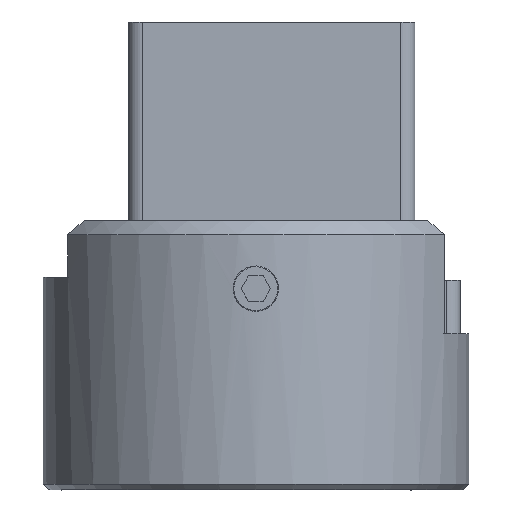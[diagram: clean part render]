
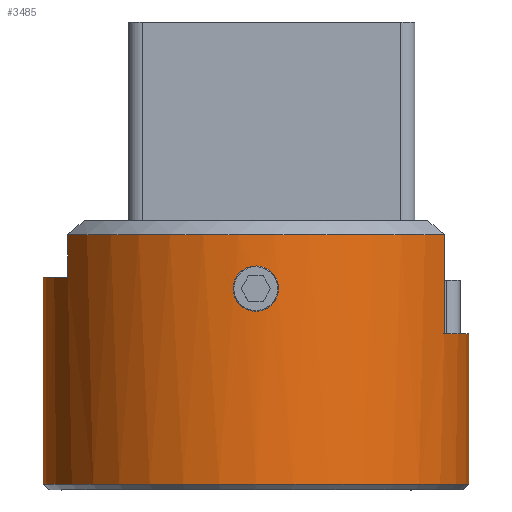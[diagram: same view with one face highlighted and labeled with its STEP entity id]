
A CAD part, left-side view. The second image highlights one B-rep face of the part: STEP entity #3485.
In plain terms, the highlighted cylindrical face has radius 7.5 mm (diameter 15 mm), a partial arc.
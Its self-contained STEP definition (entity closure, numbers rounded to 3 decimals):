
#137 = VECTOR ( 'NONE', #1724, 1000. ) ;
#146 = B_SPLINE_CURVE_WITH_KNOTS ( 'NONE', 3,
 ( #984, #645, #1683, #4154, #2051, #4499, #2404, #315, #2759, #657, #3118, #1002, #3464, #1358 ),
 .UNSPECIFIED., .F., .F.,
 ( 4, 2, 2, 2, 2, 2, 4 ),
 ( 0.003, 0.003, 0.003, 0.004, 0.004, 0.004, 0.005 ),
 .UNSPECIFIED. ) ;
#202 = CARTESIAN_POINT ( 'NONE',  ( 56.82, -18.328, -26.071 ) ) ;
#216 = CARTESIAN_POINT ( 'NONE',  ( 56.818, -18.349, -25.967 ) ) ;
#220 = VECTOR ( 'NONE', #3931, 1000. ) ;
#229 = CARTESIAN_POINT ( 'NONE',  ( 56.818, -19.928, -26.176 ) ) ;
#241 = EDGE_CURVE ( 'NONE', #2557, #2229, #2311, .T. ) ;
#315 = CARTESIAN_POINT ( 'NONE',  ( 56.776, -19.023, -26.976 ) ) ;
#330 = VERTEX_POINT ( 'NONE', #2060 ) ;
#341 = EDGE_LOOP ( 'NONE', ( #2106, #3053 ) ) ;
#342 = CARTESIAN_POINT ( 'NONE',  ( 60.776, -12.501, -25.776 ) ) ;
#461 = CYLINDRICAL_SURFACE ( 'NONE', #1755, 7.5 ) ;
#530 = EDGE_CURVE ( 'NONE', #330, #707, #1245, .T. ) ;
#558 = FACE_BOUND ( 'NONE', #341, .T. ) ;
#562 = CARTESIAN_POINT ( 'NONE',  ( 56.804, -18.488, -25.684 ) ) ;
#611 = DIRECTION ( 'NONE',  ( 0., 0., 1. ) ) ;
#645 = CARTESIAN_POINT ( 'NONE',  ( 56.818, -19.928, -26.385 ) ) ;
#647 = DIRECTION ( 'NONE',  ( 0., 0., 1. ) ) ;
#657 = CARTESIAN_POINT ( 'NONE',  ( 56.787, -18.725, -26.876 ) ) ;
#707 = VERTEX_POINT ( 'NONE', #3265 ) ;
#728 = EDGE_LOOP ( 'NONE', ( #3018, #3509, #2067, #3956, #2209, #3788, #1394, #2069 ) ) ;
#781 = CIRCLE ( 'NONE', #2651, 7.5 ) ;
#828 = CARTESIAN_POINT ( 'NONE',  ( 64.276, -19.135, -33.076 ) ) ;
#900 = CARTESIAN_POINT ( 'NONE',  ( 56.777, -18.918, -25.376 ) ) ;
#932 = CIRCLE ( 'NONE', #1941, 7.5 ) ;
#984 = CARTESIAN_POINT ( 'NONE',  ( 56.818, -19.928, -26.176 ) ) ;
#1002 = CARTESIAN_POINT ( 'NONE',  ( 56.81, -18.415, -26.595 ) ) ;
#1147 = VERTEX_POINT ( 'NONE', #2300 ) ;
#1185 = DIRECTION ( 'NONE',  ( 0., 1., 0. ) ) ;
#1245 = LINE ( 'NONE', #1461, #220 ) ;
#1257 = CARTESIAN_POINT ( 'NONE',  ( 56.778, -19.337, -25.397 ) ) ;
#1279 = DIRECTION ( 'NONE',  ( 0., 0., -1. ) ) ;
#1300 = CARTESIAN_POINT ( 'NONE',  ( 64.276, -26.635, -33.276 ) ) ;
#1308 = CARTESIAN_POINT ( 'NONE',  ( 64.276, -19.135, -33.276 ) ) ;
#1334 = DIRECTION ( 'NONE',  ( 0., 0., -1. ) ) ;
#1358 = CARTESIAN_POINT ( 'NONE',  ( 56.82, -18.328, -26.176 ) ) ;
#1374 = CARTESIAN_POINT ( 'NONE',  ( 60.776, -12.501, -23.776 ) ) ;
#1394 = ORIENTED_EDGE ( 'NONE', *, *, #3614, .T. ) ;
#1461 = CARTESIAN_POINT ( 'NONE',  ( 64.276, -11.635, -33.276 ) ) ;
#1467 = VERTEX_POINT ( 'NONE', #2461 ) ;
#1528 = LINE ( 'NONE', #1300, #2478 ) ;
#1600 = CARTESIAN_POINT ( 'NONE',  ( 56.792, -19.619, -25.536 ) ) ;
#1636 = EDGE_CURVE ( 'NONE', #3092, #2229, #1696, .T. ) ;
#1683 = CARTESIAN_POINT ( 'NONE',  ( 56.808, -19.841, -26.594 ) ) ;
#1696 = LINE ( 'NONE', #2025, #4395 ) ;
#1713 = VERTEX_POINT ( 'NONE', #342 ) ;
#1724 = DIRECTION ( 'NONE',  ( 0., 0., -1. ) ) ;
#1755 = AXIS2_PLACEMENT_3D ( 'NONE', #1308, #611, #3070 ) ;
#1815 = DIRECTION ( 'NONE',  ( 0., 0., -1. ) ) ;
#1941 = AXIS2_PLACEMENT_3D ( 'NONE', #3386, #1279, #3734 ) ;
#1946 = CARTESIAN_POINT ( 'NONE',  ( 56.82, -18.328, -26.176 ) ) ;
#1947 = AXIS2_PLACEMENT_3D ( 'NONE', #3923, #1815, #4273 ) ;
#1963 = CARTESIAN_POINT ( 'NONE',  ( 56.808, -19.827, -25.773 ) ) ;
#2025 = CARTESIAN_POINT ( 'NONE',  ( 60.776, -25.768, -23.776 ) ) ;
#2051 = CARTESIAN_POINT ( 'NONE',  ( 56.786, -19.531, -26.875 ) ) ;
#2060 = CARTESIAN_POINT ( 'NONE',  ( 64.276, -11.635, -33.076 ) ) ;
#2067 = ORIENTED_EDGE ( 'NONE', *, *, #3199, .T. ) ;
#2069 = ORIENTED_EDGE ( 'NONE', *, *, #3895, .F. ) ;
#2106 = ORIENTED_EDGE ( 'NONE', *, *, #3111, .T. ) ;
#2194 = CARTESIAN_POINT ( 'NONE',  ( 60.776, -25.768, -27.776 ) ) ;
#2209 = ORIENTED_EDGE ( 'NONE', *, *, #1636, .F. ) ;
#2229 = VERTEX_POINT ( 'NONE', #2194 ) ;
#2300 = CARTESIAN_POINT ( 'NONE',  ( 56.818, -19.928, -26.176 ) ) ;
#2311 = CIRCLE ( 'NONE', #1947, 7.5 ) ;
#2319 = CARTESIAN_POINT ( 'NONE',  ( 56.818, -19.928, -26.072 ) ) ;
#2361 = DIRECTION ( 'NONE',  ( 0., 0., 1. ) ) ;
#2404 = CARTESIAN_POINT ( 'NONE',  ( 56.776, -19.234, -26.976 ) ) ;
#2461 = CARTESIAN_POINT ( 'NONE',  ( 60.776, -12.501, -24.276 ) ) ;
#2478 = VECTOR ( 'NONE', #2361, 1000. ) ;
#2557 = VERTEX_POINT ( 'NONE', #2671 ) ;
#2584 = EDGE_CURVE ( 'NONE', #3092, #1467, #932, .T. ) ;
#2651 = AXIS2_PLACEMENT_3D ( 'NONE', #828, #3299, #1185 ) ;
#2658 = CARTESIAN_POINT ( 'NONE',  ( 56.81, -18.429, -25.773 ) ) ;
#2665 = EDGE_CURVE ( 'NONE', #330, #3805, #781, .T. ) ;
#2671 = CARTESIAN_POINT ( 'NONE',  ( 64.276, -26.635, -27.776 ) ) ;
#2740 = CARTESIAN_POINT ( 'NONE',  ( 64.276, -19.135, -25.776 ) ) ;
#2759 = CARTESIAN_POINT ( 'NONE',  ( 56.779, -18.919, -26.956 ) ) ;
#2857 = B_SPLINE_CURVE_WITH_KNOTS ( 'NONE', 3,
 ( #1946, #202, #216, #2658, #562, #3017, #900, #3366, #1257, #3718, #1600, #4067, #1963, #4418, #2319, #229 ),
 .UNSPECIFIED., .F., .F.,
 ( 4, 2, 2, 2, 2, 2, 2, 4 ),
 ( 0., 0., 0.001, 0.001, 0.002, 0.002, 0.002, 0.003 ),
 .UNSPECIFIED. ) ;
#2928 = LINE ( 'NONE', #1374, #137 ) ;
#3017 = CARTESIAN_POINT ( 'NONE',  ( 56.787, -18.71, -25.463 ) ) ;
#3018 = ORIENTED_EDGE ( 'NONE', *, *, #530, .F. ) ;
#3045 = CARTESIAN_POINT ( 'NONE',  ( 64.276, -26.635, -33.076 ) ) ;
#3053 = ORIENTED_EDGE ( 'NONE', *, *, #4278, .T. ) ;
#3070 = DIRECTION ( 'NONE',  ( 0., -1., 0. ) ) ;
#3092 = VERTEX_POINT ( 'NONE', #3685 ) ;
#3106 = DIRECTION ( 'NONE',  ( 0., -1., 0. ) ) ;
#3111 = EDGE_CURVE ( 'NONE', #3276, #1147, #2857, .T. ) ;
#3118 = CARTESIAN_POINT ( 'NONE',  ( 56.793, -18.636, -26.816 ) ) ;
#3199 = EDGE_CURVE ( 'NONE', #3805, #2557, #1528, .T. ) ;
#3265 = CARTESIAN_POINT ( 'NONE',  ( 64.276, -11.635, -25.776 ) ) ;
#3276 = VERTEX_POINT ( 'NONE', #3967 ) ;
#3299 = DIRECTION ( 'NONE',  ( 0., 0., 1. ) ) ;
#3366 = CARTESIAN_POINT ( 'NONE',  ( 56.776, -19.232, -25.376 ) ) ;
#3386 = CARTESIAN_POINT ( 'NONE',  ( 64.276, -19.135, -24.276 ) ) ;
#3464 = CARTESIAN_POINT ( 'NONE',  ( 56.82, -18.328, -26.388 ) ) ;
#3485 = ADVANCED_FACE ( 'NONE', ( #4176, #558 ), #461, .T. ) ;
#3509 = ORIENTED_EDGE ( 'NONE', *, *, #2665, .T. ) ;
#3614 = EDGE_CURVE ( 'NONE', #1467, #1713, #2928, .T. ) ;
#3685 = CARTESIAN_POINT ( 'NONE',  ( 60.776, -25.768, -24.276 ) ) ;
#3718 = CARTESIAN_POINT ( 'NONE',  ( 56.786, -19.531, -25.477 ) ) ;
#3734 = DIRECTION ( 'NONE',  ( 0., -1., 0. ) ) ;
#3785 = CIRCLE ( 'NONE', #3992, 7.5 ) ;
#3788 = ORIENTED_EDGE ( 'NONE', *, *, #2584, .T. ) ;
#3805 = VERTEX_POINT ( 'NONE', #3045 ) ;
#3895 = EDGE_CURVE ( 'NONE', #707, #1713, #3785, .T. ) ;
#3923 = CARTESIAN_POINT ( 'NONE',  ( 64.276, -19.135, -27.776 ) ) ;
#3931 = DIRECTION ( 'NONE',  ( 0., 0., 1. ) ) ;
#3956 = ORIENTED_EDGE ( 'NONE', *, *, #241, .T. ) ;
#3967 = CARTESIAN_POINT ( 'NONE',  ( 56.82, -18.328, -26.176 ) ) ;
#3992 = AXIS2_PLACEMENT_3D ( 'NONE', #2740, #647, #3106 ) ;
#4067 = CARTESIAN_POINT ( 'NONE',  ( 56.803, -19.768, -25.685 ) ) ;
#4154 = CARTESIAN_POINT ( 'NONE',  ( 56.792, -19.62, -26.815 ) ) ;
#4176 = FACE_OUTER_BOUND ( 'NONE', #728, .T. ) ;
#4273 = DIRECTION ( 'NONE',  ( 0., 1., 0. ) ) ;
#4278 = EDGE_CURVE ( 'NONE', #1147, #3276, #146, .T. ) ;
#4395 = VECTOR ( 'NONE', #1334, 1000. ) ;
#4418 = CARTESIAN_POINT ( 'NONE',  ( 56.816, -19.907, -25.967 ) ) ;
#4499 = CARTESIAN_POINT ( 'NONE',  ( 56.779, -19.338, -26.955 ) ) ;
